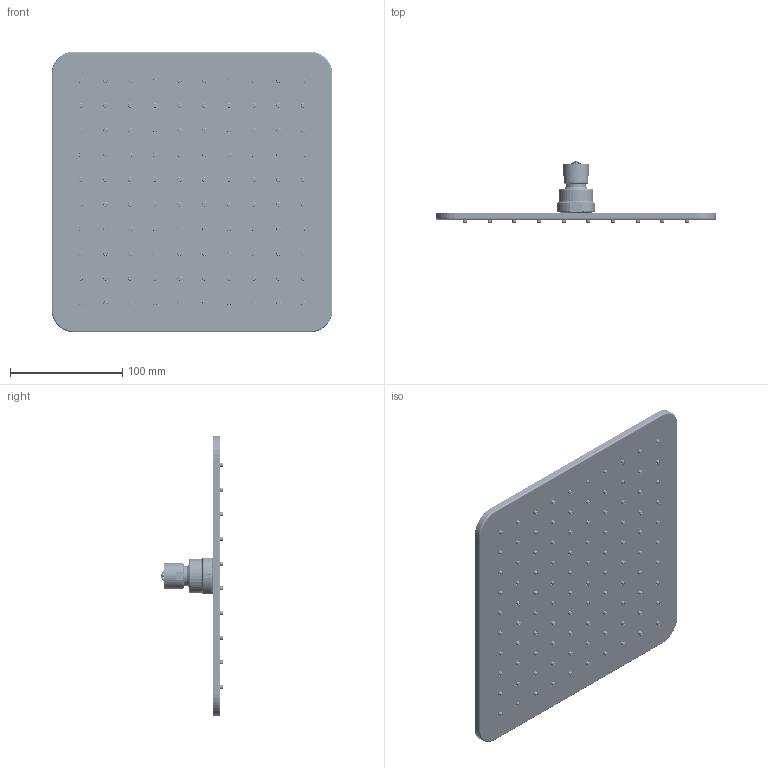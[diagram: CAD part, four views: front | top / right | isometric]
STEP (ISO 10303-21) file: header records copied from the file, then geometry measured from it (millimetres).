
FILE_DESCRIPTION((''),'2;1');
FILE_NAME('ROB1007-3_ASM','2020-08-13T',('Administrator'),(''),'PRO/ENGINEER BY PARAMETRIC TECHNOLOGY CORPORATION, 2015440','PRO/ENGINEER BY PARAMETRIC TECHNOLOGY CORPORATION, 2015440','');
FILE_SCHEMA(('CONFIG_CONTROL_DESIGN'));
Products named in the file (14): PQA0337; PCA0044; AQ00159_ASM; PTE0441; PHA0337; PJA0268; PCA0140; PTE0304; PJA0276; PPH0019; PLC0004; XIN-CHANGGUIQIUZU_ASM; PLC0044; ROB1007-3_ASM
Assembly tree (47 placements, depth 3):
  ROB1007-3_ASM
    AQ00159_ASM
      PQA0337
      PCA0044  x18
    PTE0441
    PHA0337
    XIN-CHANGGUIQIUZU_ASM
      PJA0268
      PCA0140
      PTE0304
      PJA0276
      PPH0019
      PLC0004
    PLC0044  x18
Bounding box: 250 x 54.66 x 250 mm (x, y, z)
Volume: 197582.8 mm3; surface area: 393055.6 mm2
Topology: 45 solids, 45 shells, 6269 faces, 17030 edges, 10135 vertices
Faces by surface type: torus 2124, cylinder 1733, bspline 1186, cone 544, plane 516, sphere 166
Entity records: 232826 total; most frequent: CARTESIAN_POINT 132350, ORIENTED_EDGE 23920, DIRECTION 17784, EDGE_CURVE 11960, AXIS2_PLACEMENT_3D 8226, VERTEX_POINT 7177, B_SPLINE_CURVE_WITH_KNOTS 5854, EDGE_LOOP 4785
